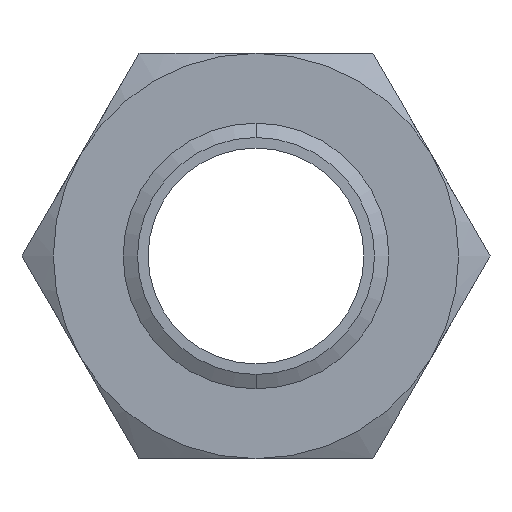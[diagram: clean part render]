
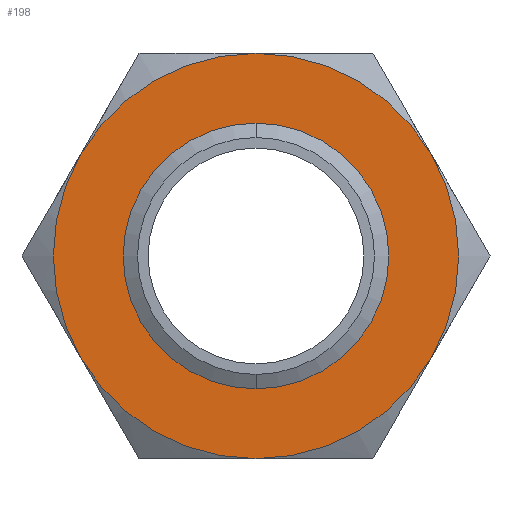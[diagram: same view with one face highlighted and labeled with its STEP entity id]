
A CAD part, front view. The second image highlights one B-rep face of the part: STEP entity #198.
In plain terms, the highlighted planar face has unit normal (0, -1, 0).
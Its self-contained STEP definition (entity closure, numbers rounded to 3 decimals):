
#198 = ADVANCED_FACE ( 'NONE', ( #693, #692 ), #632, .F. ) ;
#199 = EDGE_LOOP ( 'NONE', ( #200, #282, #285, #205, #209, #212 ) ) ;
#200 = ORIENTED_EDGE ( 'NONE', *, *, #201, .F. ) ;
#201 = EDGE_CURVE ( 'NONE', #202, #203, #686, .T. ) ;
#202 = VERTEX_POINT ( 'NONE', #682 ) ;
#203 = VERTEX_POINT ( 'NONE', #681 ) ;
#205 = ORIENTED_EDGE ( 'NONE', *, *, #207, .F. ) ;
#207 = EDGE_CURVE ( 'NONE', #208, #287, #674, .T. ) ;
#208 = VERTEX_POINT ( 'NONE', #669 ) ;
#209 = ORIENTED_EDGE ( 'NONE', *, *, #210, .F. ) ;
#210 = EDGE_CURVE ( 'NONE', #211, #208, #667, .T. ) ;
#211 = VERTEX_POINT ( 'NONE', #662 ) ;
#212 = ORIENTED_EDGE ( 'NONE', *, *, #213, .F. ) ;
#213 = EDGE_CURVE ( 'NONE', #203, #211, #724, .T. ) ;
#267 = EDGE_LOOP ( 'NONE', ( #268, #269 ) ) ;
#268 = ORIENTED_EDGE ( 'NONE', *, *, #2739, .F. ) ;
#269 = ORIENTED_EDGE ( 'NONE', *, *, #270, .F. ) ;
#270 = EDGE_CURVE ( 'NONE', #2693, #2692, #787, .T. ) ;
#282 = ORIENTED_EDGE ( 'NONE', *, *, #283, .F. ) ;
#283 = EDGE_CURVE ( 'NONE', #284, #202, #829, .T. ) ;
#284 = VERTEX_POINT ( 'NONE', #824 ) ;
#285 = ORIENTED_EDGE ( 'NONE', *, *, #286, .F. ) ;
#286 = EDGE_CURVE ( 'NONE', #287, #284, #823, .T. ) ;
#287 = VERTEX_POINT ( 'NONE', #818 ) ;
#632 = PLANE ( 'NONE',  #691 ) ;
#662 = CARTESIAN_POINT ( 'NONE',  ( 67.117, 0., -38.75 ) ) ;
#663 = DIRECTION ( 'NONE',  ( 0., 0., 1. ) ) ;
#664 = DIRECTION ( 'NONE',  ( 0., 1., 0. ) ) ;
#665 = CARTESIAN_POINT ( 'NONE',  ( 0., 0., 0. ) ) ;
#666 = AXIS2_PLACEMENT_3D ( 'NONE', #665, #664, #663 ) ;
#667 = CIRCLE ( 'NONE', #666, 77.5 ) ;
#669 = CARTESIAN_POINT ( 'NONE',  ( 0., 0., -77.5 ) ) ;
#670 = DIRECTION ( 'NONE',  ( 0., 0., 1. ) ) ;
#671 = DIRECTION ( 'NONE',  ( 0., 1., 0. ) ) ;
#672 = CARTESIAN_POINT ( 'NONE',  ( 0., 0., 0. ) ) ;
#673 = AXIS2_PLACEMENT_3D ( 'NONE', #672, #671, #670 ) ;
#674 = CIRCLE ( 'NONE', #673, 77.5 ) ;
#681 = CARTESIAN_POINT ( 'NONE',  ( 67.117, 0., 38.75 ) ) ;
#682 = CARTESIAN_POINT ( 'NONE',  ( 0., 0., 77.5 ) ) ;
#683 = DIRECTION ( 'NONE',  ( 0., 0., 1. ) ) ;
#684 = DIRECTION ( 'NONE',  ( 0., 1., 0. ) ) ;
#685 = AXIS2_PLACEMENT_3D ( 'NONE', #689, #684, #683 ) ;
#686 = CIRCLE ( 'NONE', #685, 77.5 ) ;
#687 = DIRECTION ( 'NONE',  ( 0., 0., 1. ) ) ;
#688 = DIRECTION ( 'NONE',  ( 0., 1., 0. ) ) ;
#689 = CARTESIAN_POINT ( 'NONE',  ( 0., 0., 0. ) ) ;
#690 = CARTESIAN_POINT ( 'NONE',  ( 44.745, 0., -77.5 ) ) ;
#691 = AXIS2_PLACEMENT_3D ( 'NONE', #690, #688, #687 ) ;
#692 = FACE_BOUND ( 'NONE', #267, .T. ) ;
#693 = FACE_OUTER_BOUND ( 'NONE', #199, .T. ) ;
#720 = DIRECTION ( 'NONE',  ( 0., 0., 1. ) ) ;
#721 = DIRECTION ( 'NONE',  ( 0., 1., 0. ) ) ;
#722 = CARTESIAN_POINT ( 'NONE',  ( 0., 0., 0. ) ) ;
#723 = AXIS2_PLACEMENT_3D ( 'NONE', #722, #721, #720 ) ;
#724 = CIRCLE ( 'NONE', #723, 77.5 ) ;
#784 = DIRECTION ( 'NONE',  ( 0., 0., -1. ) ) ;
#785 = DIRECTION ( 'NONE',  ( 0., -1., 0. ) ) ;
#786 = AXIS2_PLACEMENT_3D ( 'NONE', #794, #785, #784 ) ;
#787 = CIRCLE ( 'NONE', #786, 45.301 ) ;
#794 = CARTESIAN_POINT ( 'NONE',  ( 0., 0., 0. ) ) ;
#818 = CARTESIAN_POINT ( 'NONE',  ( -67.117, 0., -38.75 ) ) ;
#819 = DIRECTION ( 'NONE',  ( 0., 0., 1. ) ) ;
#820 = DIRECTION ( 'NONE',  ( 0., 1., 0. ) ) ;
#821 = CARTESIAN_POINT ( 'NONE',  ( 0., 0., 0. ) ) ;
#822 = AXIS2_PLACEMENT_3D ( 'NONE', #821, #820, #819 ) ;
#823 = CIRCLE ( 'NONE', #822, 77.5 ) ;
#824 = CARTESIAN_POINT ( 'NONE',  ( -67.117, 0., 38.75 ) ) ;
#825 = DIRECTION ( 'NONE',  ( 0., 0., 1. ) ) ;
#826 = DIRECTION ( 'NONE',  ( 0., 1., 0. ) ) ;
#827 = CARTESIAN_POINT ( 'NONE',  ( 0., 0., 0. ) ) ;
#828 = AXIS2_PLACEMENT_3D ( 'NONE', #827, #826, #825 ) ;
#829 = CIRCLE ( 'NONE', #828, 77.5 ) ;
#1591 = CARTESIAN_POINT ( 'NONE',  ( 0., 0., 45.301 ) ) ;
#1592 = CARTESIAN_POINT ( 'NONE',  ( 0., 0., -45.301 ) ) ;
#1713 = DIRECTION ( 'NONE',  ( 0., 0., -1. ) ) ;
#1714 = DIRECTION ( 'NONE',  ( 0., -1., 0. ) ) ;
#1715 = AXIS2_PLACEMENT_3D ( 'NONE', #1725, #1714, #1713 ) ;
#1716 = CIRCLE ( 'NONE', #1715, 45.301 ) ;
#1725 = CARTESIAN_POINT ( 'NONE',  ( 0., 0., 0. ) ) ;
#2692 = VERTEX_POINT ( 'NONE', #1592 ) ;
#2693 = VERTEX_POINT ( 'NONE', #1591 ) ;
#2739 = EDGE_CURVE ( 'NONE', #2692, #2693, #1716, .T. ) ;
